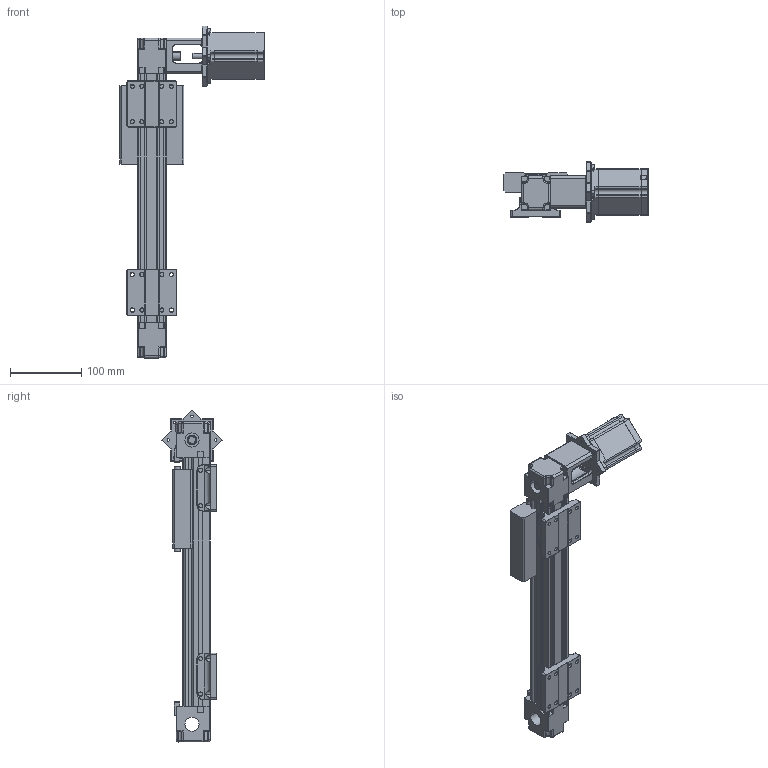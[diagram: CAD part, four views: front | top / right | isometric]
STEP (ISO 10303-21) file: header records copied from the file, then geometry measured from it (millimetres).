
FILE_DESCRIPTION (( 'STEP AP203' ), '1' );
FILE_NAME ('LTK-W40-L75-900-L-57M-E5-mt.STEP', '2023-10-05T14:26:20', ( '' ), ( '' ), 'SwSTEP 2.0', 'SolidWorks 2019', '' );
FILE_SCHEMA (( 'CONFIG_CONTROL_DESIGN' ));
Length unit declared in the file: millimetre
Products named in the file (8): 57HS22^LTK-W40-L75-900-L-57M-E5-mt; KTK-W40____-0^LTK-W40-L75-900-L-57M-E5-mt; KTK-W40________^LTK-W40-L75-900-L-57M-E5-mt; LTK-W40-L75-900-L-57M-E5-mt; MANCAL; KTK-W40__________^LTK-W40-L75-900-L-57M-E5-mt; PERFIL + MANCAL; KTK-W40______3D^LTK-W40-L75-900-L-57M-E5-mt
Assembly tree (8 placements, depth 2):
  LTK-W40-L75-900-L-57M-E5-mt
    PERFIL + MANCAL
    KTK-W40______3D^LTK-W40-L75-900-L-57M-E5-mt
    KTK-W40________^LTK-W40-L75-900-L-57M-E5-mt  x2
    KTK-W40__________^LTK-W40-L75-900-L-57M-E5-mt
    KTK-W40____-0^LTK-W40-L75-900-L-57M-E5-mt
    57HS22^LTK-W40-L75-900-L-57M-E5-mt
    MANCAL
Bounding box: 202.99 x 84.44 x 467.22 mm (x, y, z)
Volume: 1205676.8 mm3; surface area: 238794.8 mm2
Topology: 11 solids, 11 shells, 1377 faces, 3475 edges, 2126 vertices
Faces by surface type: cylinder 593, plane 372, torus 200, bspline 154, sphere 34, cone 24
Entity records: 44025 total; most frequent: CARTESIAN_POINT 14954, DIRECTION 5941, ORIENTED_EDGE 5926, EDGE_CURVE 2963, AXIS2_PLACEMENT_3D 2248, VERTEX_POINT 1854, LINE 1445, VECTOR 1445
